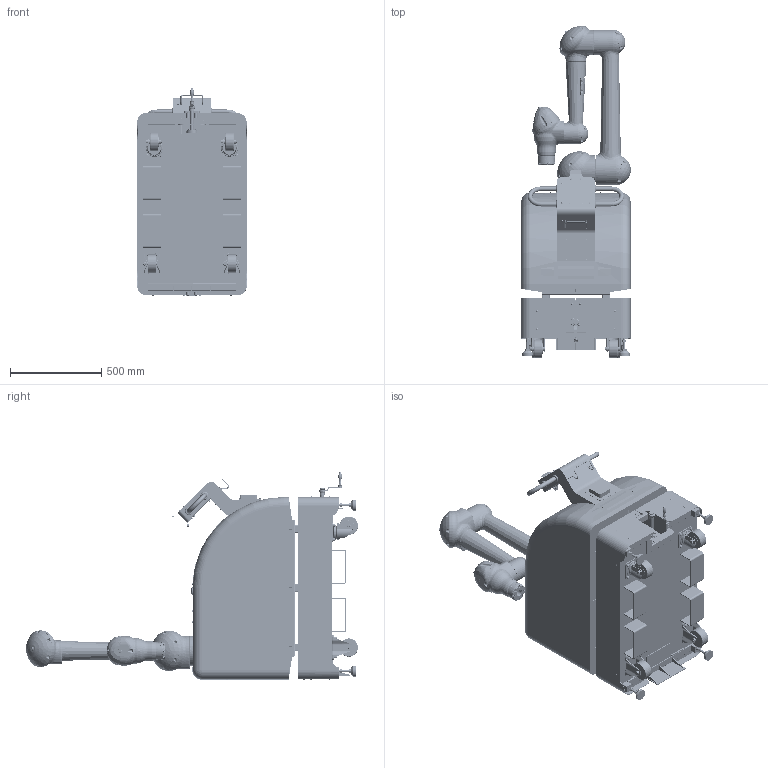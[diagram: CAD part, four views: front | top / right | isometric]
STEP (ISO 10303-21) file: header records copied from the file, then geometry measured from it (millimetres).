
FILE_DESCRIPTION((''),'2;1');
FILE_NAME('HC10DT_HAND_CARRY_TYPE__ASM','2019-05-28T',('morimasa'),('YASKAWA ELECTRIC CORPORATION'),'PRO/ENGINEER BY PARAMETRIC TECHNOLOGY CORPORATION, 2015030','PRO/ENGINEER BY PARAMETRIC TECHNOLOGY CORPORATION, 2015030','');
FILE_SCHEMA(('CONFIG_CONTROL_DESIGN'));
Products named in the file (10): HAND_TRUCK; B_AXIS_CABLE_BOTTOM; S_AXIS; L_AXIS; U_AXIS; R_AXIS; B_AXIS; T_AXIS_; NEW-SWITCH-BOX_SW0001; HC10DT_HAND_CARRY_TYPE__ASM
Assembly tree (9 placements, depth 2):
  HC10DT_HAND_CARRY_TYPE__ASM
    HAND_TRUCK
    B_AXIS_CABLE_BOTTOM
    S_AXIS
    L_AXIS
    U_AXIS
    R_AXIS
    B_AXIS
    T_AXIS_
    NEW-SWITCH-BOX_SW0001
Bounding box: 601 x 1821.2 x 1142.11 mm (x, y, z)
Volume: 188750337.6 mm3; surface area: 15313095.7 mm2
Topology: 55 solids, 115 shells, 7852 faces, 19347 edges, 12112 vertices
Faces by surface type: plane 3122, cylinder 2738, bspline 749, cone 626, torus 484, sphere 133
Entity records: 323315 total; most frequent: CARTESIAN_POINT 138293, DIRECTION 39022, ORIENTED_EDGE 38470, EDGE_CURVE 19251, AXIS2_PLACEMENT_3D 15284, VERTEX_POINT 12126, EDGE_LOOP 8871, VECTOR 8454
